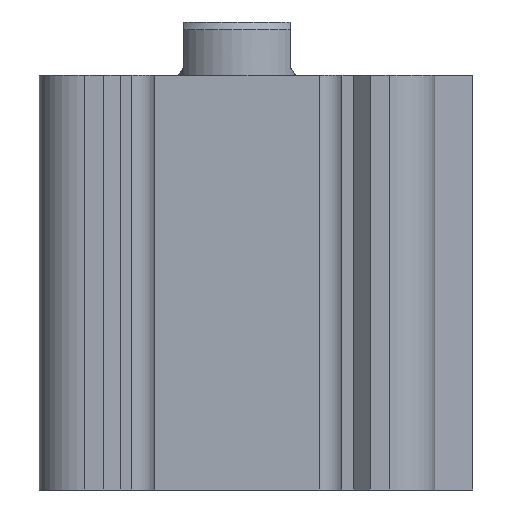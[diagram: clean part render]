
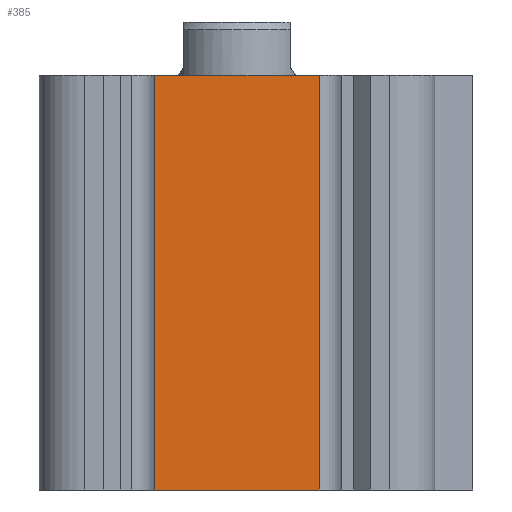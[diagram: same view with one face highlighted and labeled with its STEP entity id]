
A CAD part, front view. The second image highlights one B-rep face of the part: STEP entity #385.
In plain terms, the highlighted planar face has unit normal (0, -1, 0).
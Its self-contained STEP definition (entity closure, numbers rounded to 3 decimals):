
#385 = ADVANCED_FACE( '', ( #838 ), #839, .T. );
#838 = FACE_OUTER_BOUND( '', #1338, .T. );
#839 = PLANE( '', #1339 );
#1338 = EDGE_LOOP( '', ( #2251, #2252, #2253, #2254 ) );
#1339 = AXIS2_PLACEMENT_3D( '', #2255, #2256, #2257 );
#2251 = ORIENTED_EDGE( '', *, *, #2828, .F. );
#2252 = ORIENTED_EDGE( '', *, *, #2908, .F. );
#2253 = ORIENTED_EDGE( '', *, *, #2769, .T. );
#2254 = ORIENTED_EDGE( '', *, *, #2927, .T. );
#2255 = CARTESIAN_POINT( '', ( -10.8, -23.8, -54.5 ) );
#2256 = DIRECTION( '', ( 0., -1., 0. ) );
#2257 = DIRECTION( '', ( 0., 0., -1. ) );
#2769 = EDGE_CURVE( '', #3298, #3296, #3299, .T. );
#2828 = EDGE_CURVE( '', #3387, #3389, #3390, .T. );
#2908 = EDGE_CURVE( '', #3298, #3387, #3500, .T. );
#2927 = EDGE_CURVE( '', #3296, #3389, #3523, .T. );
#3296 = VERTEX_POINT( '', #4015 );
#3298 = VERTEX_POINT( '', #4018 );
#3299 = LINE( '', #4019, #4020 );
#3387 = VERTEX_POINT( '', #4135 );
#3389 = VERTEX_POINT( '', #4138 );
#3390 = LINE( '', #4139, #4140 );
#3500 = LINE( '', #4285, #4286 );
#3523 = LINE( '', #4313, #4314 );
#4015 = CARTESIAN_POINT( '', ( 10.8, -23.8, -54.5 ) );
#4018 = CARTESIAN_POINT( '', ( -10.8, -23.8, -54.5 ) );
#4019 = CARTESIAN_POINT( '', ( -10.8, -23.8, -54.5 ) );
#4020 = VECTOR( '', #4617, 1000. );
#4135 = CARTESIAN_POINT( '', ( -10.8, -23.8, 0. ) );
#4138 = CARTESIAN_POINT( '', ( 10.8, -23.8, 0. ) );
#4139 = CARTESIAN_POINT( '', ( -10.8, -23.8, 0. ) );
#4140 = VECTOR( '', #4700, 1000. );
#4285 = CARTESIAN_POINT( '', ( -10.8, -23.8, -54.5 ) );
#4286 = VECTOR( '', #4797, 1000. );
#4313 = CARTESIAN_POINT( '', ( 10.8, -23.8, -54.5 ) );
#4314 = VECTOR( '', #4817, 1000. );
#4617 = DIRECTION( '', ( 1., 0., 0. ) );
#4700 = DIRECTION( '', ( 1., 0., 0. ) );
#4797 = DIRECTION( '', ( 0., 0., 1. ) );
#4817 = DIRECTION( '', ( 0., 0., 1. ) );
